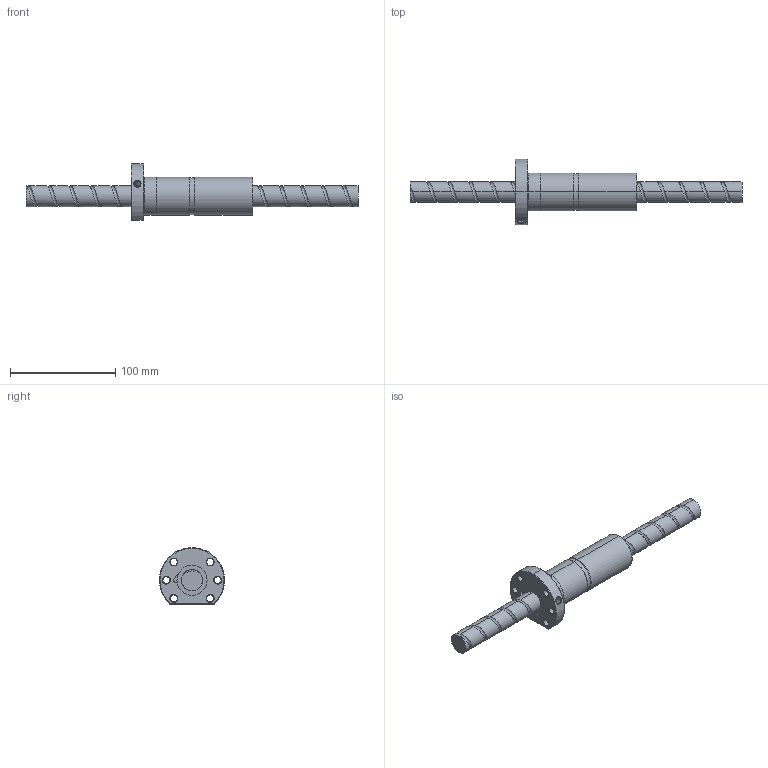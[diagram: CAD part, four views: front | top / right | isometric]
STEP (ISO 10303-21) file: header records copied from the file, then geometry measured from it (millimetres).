
FILE_DESCRIPTION (( 'STEP AP214' ), '1' );
FILE_NAME ('FDDC02020T2-B-B.STEP', '2010-07-06T02:59:04', ( 'XPAUTO' ), ( 'XPAUTO' ), 'SwSTEP 2.0', 'SolidWorks 2007', '' );
FILE_SCHEMA (( 'AUTOMOTIVE_DESIGN' ));
Length unit declared in the file: millimetre
Products named in the file (3): FDDC02020T2-B-B.sldasm-Part-2_預設; FDDC02020T2-B-B; FDDC02020T2-B-B.sldasm-Part-1_預設
Assembly tree (2 placements, depth 2):
  FDDC02020T2-B-B
    FDDC02020T2-B-B.sldasm-Part-1_預設
    FDDC02020T2-B-B.sldasm-Part-2_預設
Bounding box: 316 x 61.98 x 54 mm (x, y, z)
Volume: 194024.8 mm3; surface area: 49308.8 mm2
Topology: 2 solids, 2 shells, 131 faces, 322 edges, 200 vertices
Faces by surface type: cylinder 74, cone 24, plane 19, torus 9, bspline 5
Entity records: 25195 total; most frequent: CARTESIAN_POINT 22085, ORIENTED_EDGE 644, DIRECTION 616, EDGE_CURVE 322, AXIS2_PLACEMENT_3D 253, VERTEX_POINT 200, EDGE_LOOP 152, FACE_OUTER_BOUND 131
